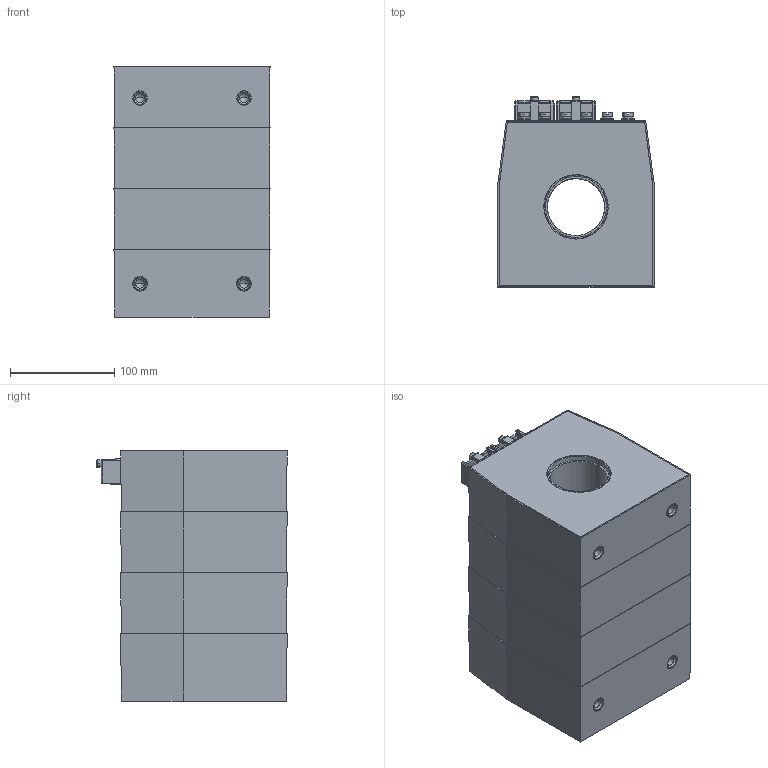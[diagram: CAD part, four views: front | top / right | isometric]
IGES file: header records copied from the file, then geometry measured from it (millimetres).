
Start section: IGES file generated from Kompas f.0 for Windows drawing by the IGES translator from Ascon Ltd., translator version IGESOUT-5.1.
Global section: file name: C:\Ðàáîòà\Èçâåùåíèÿ 5\ÒØÏ-ÍÒÇ-0.66-61...,71...,81... (ñáîðíûé)\Âåðñèÿ îò 21.05.24\3D ìîäåëü\ÒØÏ-ÍÒÇ-0,66-74À\ÒØÏ-ÍÒÇ-0,66-74À (55 ìì, 4-é ãàáàðèò).igs; native system: Kompas( 32 bit ) for Windows; preprocessor: 1.0; author: 123; organization: Microsoft; date: -17750727:093643; units: millimetre
Bounding box: 150 x 182.93 x 240.5 mm (x, y, z)
Volume: 799778.2 mm3; surface area: 538268.3 mm2
Topology: 43 solids, 43 shells, 906 faces, 2117 edges, 1311 vertices
Faces by surface type: revolution 510, bspline 396
